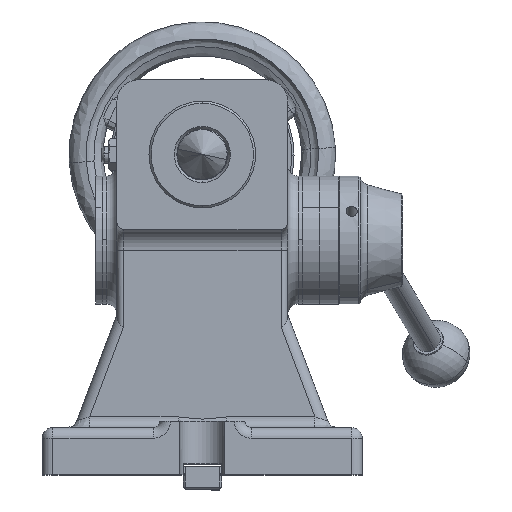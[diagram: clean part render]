
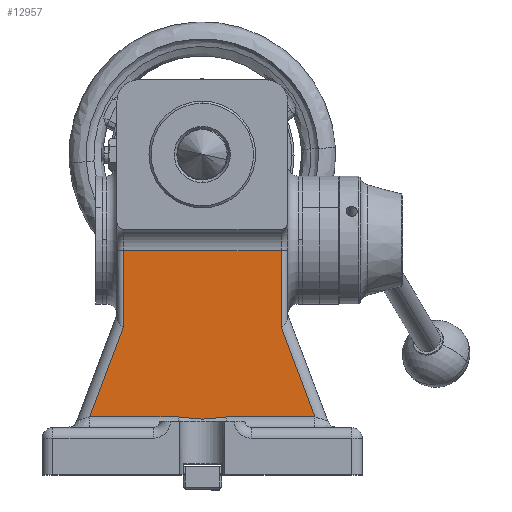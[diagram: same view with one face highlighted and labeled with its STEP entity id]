
A CAD part, top view. The second image highlights one B-rep face of the part: STEP entity #12957.
In plain terms, the highlighted planar face has unit normal (0, 0, 1).
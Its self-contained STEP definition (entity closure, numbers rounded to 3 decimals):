
#96 = ORIENTED_EDGE ( 'NONE', *, *, #8812, .T. ) ;
#504 = CARTESIAN_POINT ( 'NONE',  ( 54.656, 27., 120. ) ) ;
#579 = CARTESIAN_POINT ( 'NONE',  ( -37., 68.788, 120. ) ) ;
#823 = VECTOR ( 'NONE', #6035, 1000. ) ;
#3045 = CARTESIAN_POINT ( 'NONE',  ( 37., 0., 120. ) ) ;
#3336 = LINE ( 'NONE', #9887, #13274 ) ;
#3445 = CARTESIAN_POINT ( 'NONE',  ( 1.894, 26.053, 120. ) ) ;
#3641 = VECTOR ( 'NONE', #25522, 1000. ) ;
#3913 = DIRECTION ( 'NONE',  ( -1., 0., 0. ) ) ;
#4028 = CARTESIAN_POINT ( 'NONE',  ( 9.448, 27., 120. ) ) ;
#4821 = CARTESIAN_POINT ( 'NONE',  ( 11.358, 27., 120. ) ) ;
#5634 = CARTESIAN_POINT ( 'NONE',  ( -0.963, 26., 120. ) ) ;
#5701 = VERTEX_POINT ( 'NONE', #19716 ) ;
#5919 = CARTESIAN_POINT ( 'NONE',  ( 11.358, 27., 120. ) ) ;
#6035 = DIRECTION ( 'NONE',  ( -0.353, -0.936, 0. ) ) ;
#7560 = LINE ( 'NONE', #3045, #12946 ) ;
#7823 = CARTESIAN_POINT ( 'NONE',  ( -1.911, 26.054, 120. ) ) ;
#8684 = ORIENTED_EDGE ( 'NONE', *, *, #23807, .T. ) ;
#8785 = ORIENTED_EDGE ( 'NONE', *, *, #24749, .T. ) ;
#8812 = EDGE_CURVE ( 'NONE', #12541, #24226, #10225, .T. ) ;
#8863 = ORIENTED_EDGE ( 'NONE', *, *, #10514, .T. ) ;
#9667 = EDGE_CURVE ( 'NONE', #5701, #28260, #7560, .T. ) ;
#9887 = CARTESIAN_POINT ( 'NONE',  ( -40., 105., 120. ) ) ;
#10022 = EDGE_CURVE ( 'NONE', #12783, #16429, #20430, .T. ) ;
#10225 = LINE ( 'NONE', #23906, #10834 ) ;
#10309 = AXIS2_PLACEMENT_3D ( 'NONE', #14848, #20820, #26334 ) ;
#10514 = EDGE_CURVE ( 'NONE', #13362, #12783, #19550, .T. ) ;
#10834 = VECTOR ( 'NONE', #12694, 1000. ) ;
#11487 = DIRECTION ( 'NONE',  ( 0., 1., 0. ) ) ;
#12170 = CARTESIAN_POINT ( 'NONE',  ( 55.11, 20.796, 120. ) ) ;
#12541 = VERTEX_POINT ( 'NONE', #4821 ) ;
#12694 = DIRECTION ( 'NONE',  ( 1., 0., 0. ) ) ;
#12783 = VERTEX_POINT ( 'NONE', #18643 ) ;
#12946 = VECTOR ( 'NONE', #11487, 1000. ) ;
#12957 = ADVANCED_FACE ( 'NONE', ( #14703 ), #23581, .F. ) ;
#13274 = VECTOR ( 'NONE', #3913, 1000. ) ;
#13362 = VERTEX_POINT ( 'NONE', #579 ) ;
#14084 = CARTESIAN_POINT ( 'NONE',  ( -11.358, 27., 120. ) ) ;
#14217 = DIRECTION ( 'NONE',  ( -0.353, 0.936, 0. ) ) ;
#14513 = CARTESIAN_POINT ( 'NONE',  ( 0.942, 26., 120. ) ) ;
#14572 = EDGE_CURVE ( 'NONE', #24226, #5701, #23375, .T. ) ;
#14703 = FACE_OUTER_BOUND ( 'NONE', #25427, .T. ) ;
#14848 = CARTESIAN_POINT ( 'NONE',  ( 0., 0., 120. ) ) ;
#15021 = CARTESIAN_POINT ( 'NONE',  ( 37., 105., 120. ) ) ;
#15912 = LINE ( 'NONE', #24494, #21761 ) ;
#16429 = VERTEX_POINT ( 'NONE', #23697 ) ;
#18643 = CARTESIAN_POINT ( 'NONE',  ( -52.769, 27., 120. ) ) ;
#18775 = ORIENTED_EDGE ( 'NONE', *, *, #20380, .T. ) ;
#18879 = CARTESIAN_POINT ( 'NONE',  ( -3.801, 26.235, 120. ) ) ;
#19550 = LINE ( 'NONE', #23789, #823 ) ;
#19716 = CARTESIAN_POINT ( 'NONE',  ( 37., 68.788, 120. ) ) ;
#19926 = ORIENTED_EDGE ( 'NONE', *, *, #10022, .T. ) ;
#20024 = VECTOR ( 'NONE', #14217, 1000. ) ;
#20380 = EDGE_CURVE ( 'NONE', #16429, #12541, #25408, .T. ) ;
#20430 = LINE ( 'NONE', #504, #3641 ) ;
#20770 = CARTESIAN_POINT ( 'NONE',  ( -9.452, 27., 120. ) ) ;
#20820 = DIRECTION ( 'NONE',  ( 0., 0., -1. ) ) ;
#20951 = ORIENTED_EDGE ( 'NONE', *, *, #14572, .T. ) ;
#21203 = ORIENTED_EDGE ( 'NONE', *, *, #9667, .T. ) ;
#21483 = CARTESIAN_POINT ( 'NONE',  ( 4.731, 26.358, 120. ) ) ;
#21761 = VECTOR ( 'NONE', #26384, 1000. ) ;
#23375 = LINE ( 'NONE', #12170, #20024 ) ;
#23388 = CARTESIAN_POINT ( 'NONE',  ( -4.743, 26.359, 120. ) ) ;
#23581 = PLANE ( 'NONE',  #10309 ) ;
#23697 = CARTESIAN_POINT ( 'NONE',  ( -11.358, 27., 120. ) ) ;
#23789 = CARTESIAN_POINT ( 'NONE',  ( -55.11, 20.796, 120. ) ) ;
#23807 = EDGE_CURVE ( 'NONE', #24607, #13362, #15912, .T. ) ;
#23906 = CARTESIAN_POINT ( 'NONE',  ( 54.656, 27., 120. ) ) ;
#23962 = CARTESIAN_POINT ( 'NONE',  ( 3.788, 26.233, 120. ) ) ;
#24226 = VERTEX_POINT ( 'NONE', #28103 ) ;
#24494 = CARTESIAN_POINT ( 'NONE',  ( -37., 0., 120. ) ) ;
#24607 = VERTEX_POINT ( 'NONE', #25322 ) ;
#24749 = EDGE_CURVE ( 'NONE', #28260, #24607, #3336, .T. ) ;
#25322 = CARTESIAN_POINT ( 'NONE',  ( -37., 105., 120. ) ) ;
#25408 = B_SPLINE_CURVE_WITH_KNOTS ( 'NONE', 3,
 ( #14084, #20770, #27464, #23388, #18879, #7823, #5634, #14513, #3445, #23962, #21483, #28036, #4028, #5919 ),
 .UNSPECIFIED., .F., .F.,
 ( 4, 2, 2, 2, 2, 2, 4 ),
 ( 0., 0.006, 0.009, 0.011, 0.014, 0.017, 0.023 ),
 .UNSPECIFIED. ) ;
#25427 = EDGE_LOOP ( 'NONE', ( #8863, #19926, #18775, #96, #20951, #21203, #8785, #8684 ) ) ;
#25522 = DIRECTION ( 'NONE',  ( 1., 0., 0. ) ) ;
#26334 = DIRECTION ( 'NONE',  ( -1., 0., 0. ) ) ;
#26384 = DIRECTION ( 'NONE',  ( 0., -1., 0. ) ) ;
#27464 = CARTESIAN_POINT ( 'NONE',  ( -7.569, 26.74, 120. ) ) ;
#28036 = CARTESIAN_POINT ( 'NONE',  ( 7.562, 26.739, 120. ) ) ;
#28103 = CARTESIAN_POINT ( 'NONE',  ( 52.769, 27., 120. ) ) ;
#28260 = VERTEX_POINT ( 'NONE', #15021 ) ;
